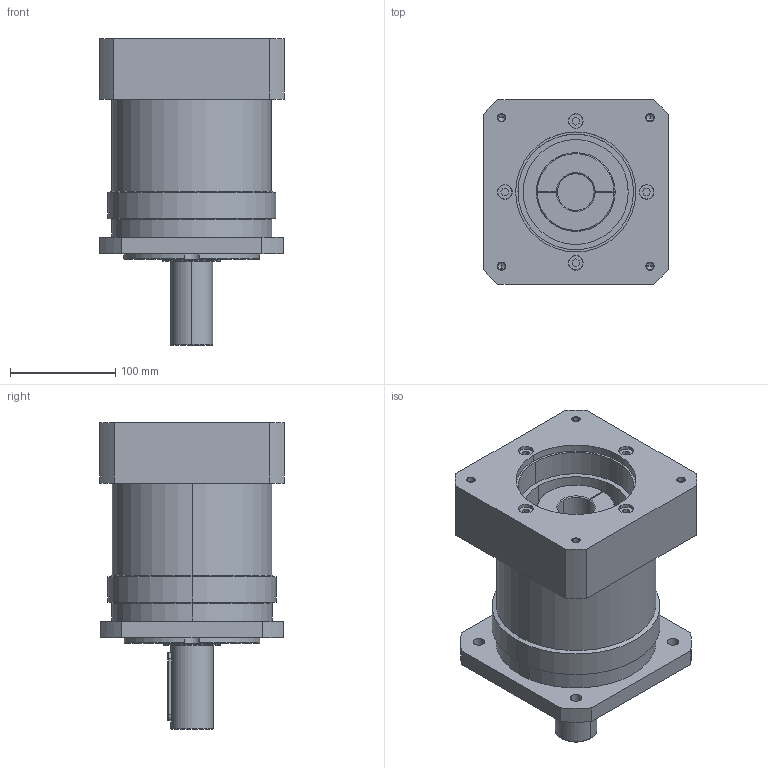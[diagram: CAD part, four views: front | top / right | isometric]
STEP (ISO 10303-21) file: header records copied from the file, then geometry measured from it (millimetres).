
FILE_DESCRIPTION((''),'2;1');
FILE_NAME('PLF160-L1','2016-03-28T',('Administrator'),(''),'PRO/ENGINEER BY PARAMETRIC TECHNOLOGY CORPORATION, 2012480','PRO/ENGINEER BY PARAMETRIC TECHNOLOGY CORPORATION, 2012480','');
FILE_SCHEMA(('CONFIG_CONTROL_DESIGN'));
Length unit declared in the file: millimetre
Products named in the file (1): PLF160-L1
Bounding box: 176.5 x 176 x 292 mm (x, y, z)
Volume: 4353744.3 mm3; surface area: 267489.9 mm2
Topology: 1 solids, 6 shells, 272 faces, 673 edges, 437 vertices
Faces by surface type: plane 140, cylinder 100, cone 22, torus 10
Entity records: 8152 total; most frequent: CARTESIAN_POINT 1488, DIRECTION 1431, ORIENTED_EDGE 1306, EDGE_CURVE 663, AXIS2_PLACEMENT_3D 515, VERTEX_POINT 437, VECTOR 401, LINE 401
